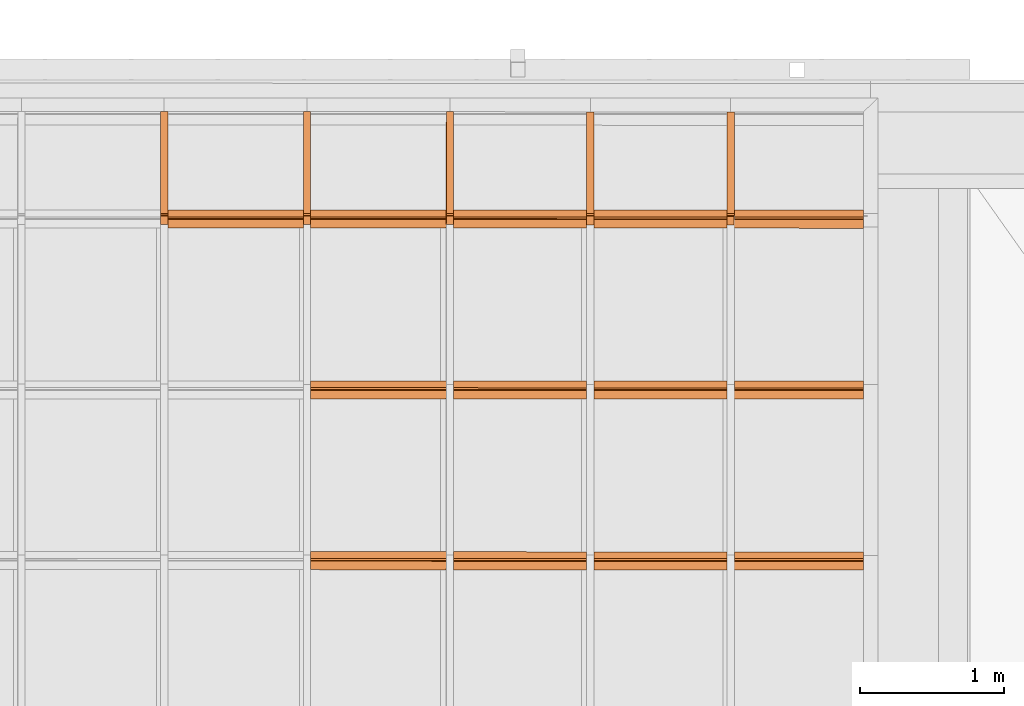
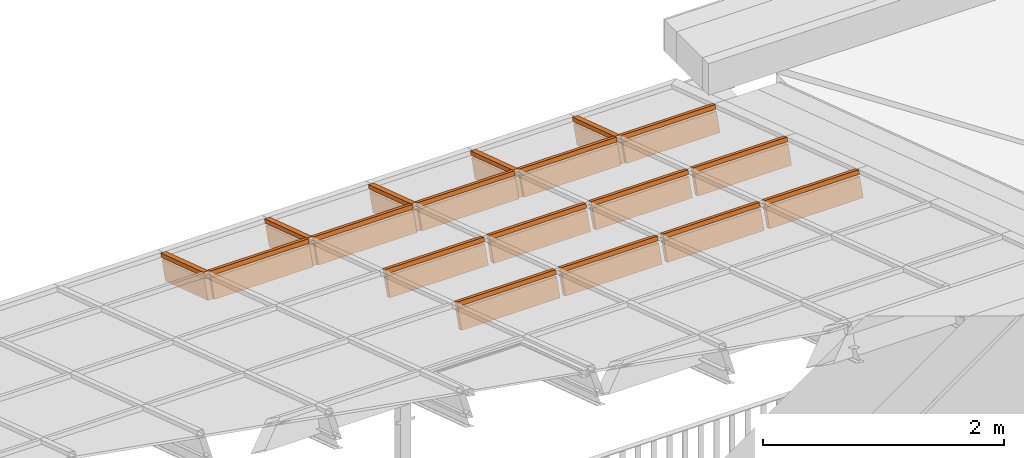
# One storey, part 47 of 47: 18 proxies, 1 element without a shape of its own.
"""IFC2X3 building model written with IfcOpenShell, lengths in millimetres."""

from ifc_helpers import new_model, entity, si_unit, converted_unit, derived_unit, money_unit, direction, frame, origin_with_axes, place, context, subcontext, project, spatial, polyline, outline, extrude, material, material_list, type_object, element, aggregate, save


model = new_model("IFC2X3")

# Units and contexts
model_context = context("Model", 3, precision=1e-05, world=origin_with_axes(), true_north=direction((0.0, 1.0)))
body_context = subcontext(model_context, "Body", "Model", "MODEL_VIEW")
ifc_project = project(units=[si_unit("LENGTHUNIT", "METRE", prefix="MILLI"), si_unit("AREAUNIT", "SQUARE_METRE"), si_unit("VOLUMEUNIT", "CUBIC_METRE"), converted_unit("PLANEANGLEUNIT", "DEGREE", entity("IfcPlaneAngleMeasure", 0.0174532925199), si_unit("PLANEANGLEUNIT", "RADIAN"), dimensions=[0, 0, 0, 0, 0, 0, 0]), si_unit("SOLIDANGLEUNIT", "STERADIAN"), money_unit("EUR"), converted_unit("TIMEUNIT", "Year", entity("IfcTimeMeasure", 31556926.0), si_unit("TIMEUNIT", "SECOND"), dimensions=[0, 0, 1, 0, 0, 0, 0]), si_unit("MASSUNIT", "GRAM", prefix="KILO"), si_unit("THERMODYNAMICTEMPERATUREUNIT", "DEGREE_CELSIUS"), si_unit("LUMINOUSINTENSITYUNIT", "LUMEN"), si_unit("ENERGYUNIT", "JOULE", prefix="MEGA"), derived_unit("THERMALCONDUCTANCEUNIT", [(si_unit("POWERUNIT", "WATT"), 1), (si_unit("LENGTHUNIT", "METRE"), -1), (si_unit("THERMODYNAMICTEMPERATUREUNIT", "KELVIN"), -1)]), derived_unit("SPECIFICHEATCAPACITYUNIT", [(si_unit("ENERGYUNIT", "JOULE"), 1), (si_unit("MASSUNIT", "GRAM", prefix="KILO"), -1), (si_unit("THERMODYNAMICTEMPERATUREUNIT", "KELVIN"), -1)]), derived_unit("MASSDENSITYUNIT", [(si_unit("MASSUNIT", "GRAM", prefix="KILO"), 1), (si_unit("VOLUMEUNIT", "CUBIC_METRE"), -1)])], contexts=[model_context])

# Site, building, storey
site_placement = place(None, origin_with_axes())
site = spatial("IfcSite", under=ifc_project, at=site_placement, Name="Site", CompositionType="ELEMENT")
building_placement = place(site_placement, origin_with_axes())
building = spatial("IfcBuilding", under=site, at=building_placement, Name="Building", CompositionType="ELEMENT")
storey_placement = place(building_placement, frame((0.0, 0.0, 6000.0), z_axis=(0.0, 0.0, 1.0), x_axis=(1.0, 0.0, 0.0)))
storey = spatial("IfcBuildingStorey", under=building, at=storey_placement, Name="KATUSEPLAAN", CompositionType="ELEMENT", Elevation=6000.0)

# Curtain wall, proxies
curtain_wall_type = type_object("IfcCurtainWallType", Name="KK-2", PredefinedType="NOTDEFINED")
curtain_wall_placement = place(storey_placement, frame((71638.1505463, 41358.6055567, 722.550081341), z_axis=(0.0, 0.0, 1.0), x_axis=(1.0, 0.0, 0.0)))
curtain_wall = element("IfcCurtainWall", 1, at=curtain_wall_placement, inside=storey, type_object=curtain_wall_type, Name="Talveaja klaaskatus")
ifc_material = material(Name="Alumiinium (1)")
ifc_material_list = material_list([ifc_material, ifc_material])
building_element_proxy_type_1 = type_object("IfcBuildingElementProxyType", Name="Frame-Mll-581", PredefinedType="NOTDEFINED")
proxy_1_placement = place(curtain_wall_placement, frame((15217.9935507, 5977.41805556, 0.851013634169), z_axis=(0.0, -0.950019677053, 0.312190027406), x_axis=(-0.999999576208, 0.000287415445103, 0.00087462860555)))
proxy_1 = element("IfcBuildingElementProxy", 2, at=proxy_1_placement, type_object=building_element_proxy_type_1, material=ifc_material_list, Name="Alumiinium (1);  Objekti nimi: Frame 22", context=body_context, shape_type="SweptSolid", body=[
    extrude(outline(polyline([(25.0091958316, 9.9769796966), (25.1841179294, 199.976899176), (-24.8158608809, 200.022931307), (-24.990782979, 10.0230118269), (25.0091958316, 9.9769796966)])), frame((0.0, 0.0, 50.0000000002), z_axis=(0.0, 0.0, 1.0), x_axis=(0.999999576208, 0.00092064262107, 0.0)), (0.0, 0.0, 1.0), 744.739022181),
    extrude(outline(polyline([(-25.0091958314, -9.97697969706), (-25.0460215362, -49.9769627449), (24.9539572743, -50.0229948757), (24.990782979, -10.0230118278), (-25.0091958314, -9.97697969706)])), frame((0.0, 0.0, 50.0000000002), z_axis=(0.0, 0.0, 1.0), x_axis=(0.999999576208, 0.00092064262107, 0.0)), (0.0, 0.0, 1.0), 744.739022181),
])
building_element_proxy_type_2 = type_object("IfcBuildingElementProxyType", Name="Frame-Mll-573", PredefinedType="NOTDEFINED")
proxy_2_placement = place(curtain_wall_placement, frame((11279.9952196, 5978.54989759, 4.29530108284), z_axis=(0.0, -0.950019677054, 0.312190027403), x_axis=(-0.999999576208, 0.000287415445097, 0.000874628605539)))
proxy_2 = element("IfcBuildingElementProxy", 3, at=proxy_2_placement, type_object=building_element_proxy_type_2, material=ifc_material_list, Name="Alumiinium (1);  Objekti nimi: Frame 22", context=body_context, shape_type="SweptSolid", body=[
    extrude(outline(polyline([(25.0091958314, 9.97697969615), (25.1841179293, 199.976899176), (-24.8158608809, 200.022931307), (-24.9907829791, 10.0230118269), (25.0091958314, 9.97697969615)])), frame((-1.13686837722e-10, 0.0, 49.9999999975), z_axis=(0.0, 0.0, 1.0), x_axis=(0.999999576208, 0.000920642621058, 0.0)), (0.0, 0.0, 1.0), 744.739022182),
    extrude(outline(polyline([(-25.0091958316, -9.97697969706), (-25.0460215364, -49.9769627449), (24.9539572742, -50.0229948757), (24.990782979, -10.0230118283), (-25.0091958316, -9.97697969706)])), frame((-1.13686837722e-10, 0.0, 49.9999999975), z_axis=(0.0, 0.0, 1.0), x_axis=(0.999999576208, 0.000920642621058, 0.0)), (0.0, 0.0, 1.0), 744.739022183),
])
building_element_proxy_type_3 = type_object("IfcBuildingElementProxyType", Name="Frame-Mll-577", PredefinedType="NOTDEFINED")
proxy_3_placement = place(curtain_wall_placement, frame((13265.994378, 5977.97909051, 2.55828867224), z_axis=(0.0, -0.950019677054, 0.312190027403), x_axis=(-0.999999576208, 0.000287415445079, 0.000874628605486)))
proxy_3 = element("IfcBuildingElementProxy", 4, at=proxy_3_placement, type_object=building_element_proxy_type_3, material=ifc_material_list, Name="Alumiinium (1);  Objekti nimi: Frame 22", context=body_context, shape_type="SweptSolid", body=[
    extrude(outline(polyline([(25.0091958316, 9.9769796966), (25.1841179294, 199.976899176), (-24.8158608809, 200.022931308), (-24.990782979, 10.0230118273), (25.0091958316, 9.9769796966)])), frame((0.0, 4.54747350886e-10, 49.9999999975), z_axis=(0.0, 0.0, 1.0), x_axis=(0.999999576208, 0.000920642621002, 0.0)), (0.0, 0.0, 1.0), 744.739022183),
    extrude(outline(polyline([(-25.0091958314, -9.97697969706), (-25.0460215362, -49.9769627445), (24.9539572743, -50.0229948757), (24.9907829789, -10.0230118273), (-25.0091958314, -9.97697969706)])), frame((0.0, 0.0, 49.9999999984), z_axis=(0.0, 0.0, 1.0), x_axis=(0.999999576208, 0.000920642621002, 0.0)), (0.0, 0.0, 1.0), 744.739022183),
])
building_element_proxy_type_4 = type_object("IfcBuildingElementProxyType", Name="Frame-Mll-213", PredefinedType="NOTDEFINED")
proxy_4_placement = place(curtain_wall_placement, frame((12272.9947988, 5978.26449405, 3.4267948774), z_axis=(0.0, -0.950019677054, 0.312190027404), x_axis=(-0.999999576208, 0.000287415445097, 0.000874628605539)))
proxy_4 = element("IfcBuildingElementProxy", 5, at=proxy_4_placement, type_object=building_element_proxy_type_4, material=ifc_material_list, Name="Alumiinium (1);  Objekti nimi: Frame 22", context=body_context, shape_type="SweptSolid", body=[
    extrude(outline(polyline([(25.0091958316, 9.9769796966), (25.1841179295, 199.976899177), (-24.8158608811, 200.022931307), (-24.9907829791, 10.0230118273), (25.0091958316, 9.9769796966)])), frame((0.0, -4.54747350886e-10, 49.9999999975), z_axis=(0.0, 0.0, 1.0), x_axis=(0.999999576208, 0.000920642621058, 0.0)), (0.0, 0.0, 1.0), 744.739022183),
    extrude(outline(polyline([(-25.0091958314, -9.9769796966), (-25.0460215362, -49.9769627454), (24.9539572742, -50.0229948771), (24.9907829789, -10.0230118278), (-25.0091958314, -9.9769796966)])), frame((0.0, -4.54747350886e-10, 49.9999999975), z_axis=(0.0, 0.0, 1.0), x_axis=(0.999999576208, 0.000920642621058, 0.0)), (0.0, 0.0, 1.0), 744.739022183),
])
building_element_proxy_type_5 = type_object("IfcBuildingElementProxyType", Name="Frame-Mll-579", PredefinedType="NOTDEFINED")
proxy_5_placement = place(curtain_wall_placement, frame((14241.9939644, 5977.69857303, 1.7046511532), z_axis=(0.0, -0.950019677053, 0.312190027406), x_axis=(-0.999999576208, 0.000287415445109, 0.000874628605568)))
proxy_5 = element("IfcBuildingElementProxy", 6, at=proxy_5_placement, type_object=building_element_proxy_type_5, material=ifc_material_list, Name="Alumiinium (1);  Objekti nimi: Frame 22", context=body_context, shape_type="SweptSolid", body=[
    extrude(outline(polyline([(25.0091958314, 9.97697969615), (25.1841179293, 199.976899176), (-24.8158608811, 200.022931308), (-24.990782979, 10.0230118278), (25.0091958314, 9.97697969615)])), frame((-1.13686837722e-10, 0.0, 49.9999999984), z_axis=(0.0, 0.0, 1.0), x_axis=(0.999999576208, 0.000920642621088, 0.0)), (0.0, 0.0, 1.0), 744.739022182),
    extrude(outline(polyline([(-25.0091958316, -9.9769796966), (-25.0460215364, -49.9769627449), (24.9539572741, -50.0229948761), (24.9907829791, -10.0230118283), (-25.0091958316, -9.9769796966)])), frame((-1.13686837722e-10, 0.0, 49.9999999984), z_axis=(0.0, 0.0, 1.0), x_axis=(0.999999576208, 0.000920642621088, 0.0)), (0.0, 0.0, 1.0), 744.739022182),
])
building_element_proxy_type_6 = type_object("IfcBuildingElementProxyType", Name="Frame-Trs-190", PredefinedType="NOTDEFINED")
proxy_6_placement = place(curtain_wall_placement, frame((11279.9952196, 5223.53218839, 252.404898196), z_axis=(0.999999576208, -0.000287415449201, -0.000874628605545), x_axis=(0.0, -0.950019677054, 0.312190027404)))
proxy_6 = element("IfcBuildingElementProxy", 7, at=proxy_6_placement, type_object=building_element_proxy_type_6, material=ifc_material_list, Name="Alumiinium (1);  Objekti nimi: Frame 22", context=body_context, shape_type="SweptSolid", body=[
    extrude(outline(polyline([(26.8723924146, 1.69544270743), (86.1885203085, 182.199173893), (38.6875384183, 197.808681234), (-20.6285894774, 17.3049500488), (26.8723924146, 1.69544270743)])), frame((0.0, 4.54747350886e-10, 24.9999999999), z_axis=(0.0, 0.0, 1.0), x_axis=(0.950019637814, 0.312190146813, 0.0)), (0.0, 0.0, 1.0), 943.0),
    extrude(outline(polyline([(-26.8723924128, -1.69544270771), (-39.3599982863, -39.6962282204), (8.1409836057, -55.3057355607), (20.6285894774, -17.3049500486), (-26.8723924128, -1.69544270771)])), frame((0.0, 4.54747350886e-10, 24.9999999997), z_axis=(0.0, 0.0, 1.0), x_axis=(0.950019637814, 0.312190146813, 0.0)), (0.0, 0.0, 1.0), 943.0),
])
building_element_proxy_type_7 = type_object("IfcBuildingElementProxyType", Name="Frame-Trs-191", PredefinedType="NOTDEFINED")
proxy_7_placement = place(curtain_wall_placement, frame((12272.9947988, 5223.24678485, 251.536391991), z_axis=(0.999999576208, -0.000287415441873, -0.000874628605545), x_axis=(0.0, -0.950019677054, 0.312190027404)))
proxy_7 = element("IfcBuildingElementProxy", 8, at=proxy_7_placement, type_object=building_element_proxy_type_7, material=ifc_material_list, Name="Alumiinium (1);  Objekti nimi: Frame 22", context=body_context, shape_type="SweptSolid", body=[
    extrude(outline(polyline([(26.8723924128, 1.69544270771), (86.1885203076, 182.199173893), (38.6875384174, 197.808681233), (-20.6285894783, 17.304950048), (26.8723924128, 1.69544270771)])), frame((9.09494701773e-10, 0.0, 24.9999999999), z_axis=(0.0, 0.0, 1.0), x_axis=(0.950019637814, 0.312190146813, 0.0)), (0.0, 0.0, 1.0), 943.0),
    extrude(outline(polyline([(-26.8723924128, -1.69544270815), (-39.3599982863, -39.6962282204), (8.14098360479, -55.3057355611), (20.6285894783, -17.3049500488), (-26.8723924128, -1.69544270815)])), frame((9.09494701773e-10, 0.0, 24.9999999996), z_axis=(0.0, 0.0, 1.0), x_axis=(0.950019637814, 0.312190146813, 0.0)), (0.0, 0.0, 1.0), 943.000000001),
])
building_element_proxy_type_8 = type_object("IfcBuildingElementProxyType", Name="Frame-Trs-192", PredefinedType="NOTDEFINED")
proxy_8_placement = place(curtain_wall_placement, frame((13265.994378, 5222.96138132, 250.667885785), z_axis=(0.999999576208, -0.000287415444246, -0.000874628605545), x_axis=(0.0, -0.950019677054, 0.312190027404)))
proxy_8 = element("IfcBuildingElementProxy", 9, at=proxy_8_placement, type_object=building_element_proxy_type_8, material=ifc_material_list, Name="Alumiinium (1);  Objekti nimi: Frame 22", context=body_context, shape_type="SweptSolid", body=[
    extrude(outline(polyline([(26.8723924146, 1.69544270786), (86.1885203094, 182.199173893), (38.6875384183, 197.808681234), (-20.6285894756, 17.304950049), (26.8723924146, 1.69544270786)])), frame((9.09494701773e-10, 9.09494701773e-10, 25.0000000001), z_axis=(0.0, 0.0, 1.0), x_axis=(0.950019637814, 0.312190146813, 0.0)), (0.0, 0.0, 1.0), 926.0),
    extrude(outline(polyline([(-26.8723924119, -1.69544270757), (-39.3599982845, -39.6962282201), (8.14098360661, -55.3057355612), (20.6285894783, -17.3049500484), (-26.8723924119, -1.69544270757)])), frame((9.09494701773e-10, 9.09494701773e-10, 25.0000000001), z_axis=(0.0, 0.0, 1.0), x_axis=(0.950019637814, 0.312190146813, 0.0)), (0.0, 0.0, 1.0), 926.0),
])
building_element_proxy_type_9 = type_object("IfcBuildingElementProxyType", Name="Frame-Trs-193", PredefinedType="NOTDEFINED")
proxy_9_placement = place(curtain_wall_placement, frame((14241.9939644, 5222.68086385, 249.814248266), z_axis=(0.999999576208, -0.000287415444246, -0.000874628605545), x_axis=(0.0, -0.950019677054, 0.312190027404)))
proxy_9 = element("IfcBuildingElementProxy", 10, at=proxy_9_placement, type_object=building_element_proxy_type_9, material=ifc_material_list, Name="Alumiinium (1);  Objekti nimi: Frame 22", context=body_context, shape_type="SweptSolid", body=[
    extrude(outline(polyline([(26.8723924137, 1.69544270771), (86.1885203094, 182.199173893), (38.6875384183, 197.808681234), (-20.6285894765, 17.3049500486), (26.8723924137, 1.69544270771)])), frame((0.0, 4.54747350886e-10, 25.0000000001), z_axis=(0.0, 0.0, 1.0), x_axis=(0.950019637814, 0.312190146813, 0.0)), (0.0, 0.0, 1.0), 926.0),
    extrude(outline(polyline([(-26.8723924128, -1.69544270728), (-39.3599982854, -39.69622822), (8.1409836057, -55.305735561), (20.6285894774, -17.3049500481), (-26.8723924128, -1.69544270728)])), frame((0.0, 4.54747350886e-10, 25.0000000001), z_axis=(0.0, 0.0, 1.0), x_axis=(0.950019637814, 0.312190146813, 0.0)), (0.0, 0.0, 1.0), 926.0),
])
building_element_proxy_type_10 = type_object("IfcBuildingElementProxyType", Name="Frame-Trs-194", PredefinedType="NOTDEFINED")
proxy_10_placement = place(curtain_wall_placement, frame((15217.9935507, 5222.40034637, 248.960610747), z_axis=(0.999999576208, -0.000287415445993, -0.000874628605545), x_axis=(0.0, -0.950019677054, 0.312190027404)))
proxy_10 = element("IfcBuildingElementProxy", 11, at=proxy_10_placement, type_object=building_element_proxy_type_10, material=ifc_material_list, Name="Alumiinium (1);  Objekti nimi: Frame 22", context=body_context, shape_type="SweptSolid", body=[
    extrude(outline(polyline([(26.8723924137, 1.69544270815), (86.1885203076, 182.199173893), (38.6875384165, 197.808681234), (-20.6285894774, 17.3049500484), (26.8723924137, 1.69544270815)])), frame((0.0, 4.54747350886e-10, 25.0000000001), z_axis=(0.0, 0.0, 1.0), x_axis=(0.950019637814, 0.312190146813, 0.0)), (0.0, 0.0, 1.0), 898.0),
    extrude(outline(polyline([(-26.8723924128, -1.69544270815), (-39.3599982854, -39.6962282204), (8.1409836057, -55.3057355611), (20.6285894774, -17.3049500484), (-26.8723924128, -1.69544270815)])), frame((0.0, 4.54747350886e-10, 24.9999999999), z_axis=(0.0, 0.0, 1.0), x_axis=(0.950019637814, 0.312190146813, 0.0)), (0.0, 0.0, 1.0), 898.0),
])
building_element_proxy_type_11 = type_object("IfcBuildingElementProxyType", Name="Frame-Trs-215", PredefinedType="NOTDEFINED")
proxy_11_placement = place(curtain_wall_placement, frame((12272.9947988, 4035.72218854, 641.773926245), z_axis=(0.999999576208, -0.000287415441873, -0.000874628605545), x_axis=(0.0, -0.950019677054, 0.312190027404)))
proxy_11 = element("IfcBuildingElementProxy", 12, at=proxy_11_placement, type_object=building_element_proxy_type_11, material=ifc_material_list, Name="Alumiinium (1);  Objekti nimi: Frame 22", context=body_context, shape_type="SweptSolid", body=[
    extrude(outline(polyline([(26.8723924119, 1.69544270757), (86.1885203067, 182.199173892), (38.6875384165, 197.808681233), (-20.6285894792, 17.3049500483), (26.8723924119, 1.69544270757)])), frame((0.0, 0.0, 24.9999999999), z_axis=(0.0, 0.0, 1.0), x_axis=(0.950019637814, 0.312190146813, 0.0)), (0.0, 0.0, 1.0), 943.000000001),
    extrude(outline(polyline([(-26.8723924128, -1.69544270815), (-39.3599982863, -39.6962282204), (8.14098360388, -55.3057355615), (20.6285894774, -17.3049500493), (-26.8723924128, -1.69544270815)])), frame((0.0, 0.0, 24.9999999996), z_axis=(0.0, 0.0, 1.0), x_axis=(0.950019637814, 0.312190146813, 0.0)), (0.0, 0.0, 1.0), 943.000000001),
])
building_element_proxy_type_12 = type_object("IfcBuildingElementProxyType", Name="Frame-Trs-246", PredefinedType="NOTDEFINED")
proxy_12_placement = place(curtain_wall_placement, frame((12272.9947988, 2848.19759222, 1032.0114605), z_axis=(0.999999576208, -0.000287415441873, -0.000874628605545), x_axis=(0.0, -0.950019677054, 0.312190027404)))
proxy_12 = element("IfcBuildingElementProxy", 13, at=proxy_12_placement, type_object=building_element_proxy_type_12, material=ifc_material_list, Name="Alumiinium (1);  Objekti nimi: Frame 22", context=body_context, shape_type="SweptSolid", body=[
    extrude(outline(polyline([(26.8723924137, 1.69544270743), (86.1885203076, 182.199173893), (38.6875384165, 197.808681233), (-20.6285894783, 17.3049500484), (26.8723924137, 1.69544270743)])), frame((9.09494701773e-10, 4.54747350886e-10, 24.9999999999), z_axis=(0.0, 0.0, 1.0), x_axis=(0.950019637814, 0.312190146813, 0.0)), (0.0, 0.0, 1.0), 943.000000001),
    extrude(outline(polyline([(-26.8723924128, -1.695442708), (-39.3599982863, -39.6962282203), (8.14098360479, -55.305735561), (20.6285894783, -17.3049500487), (-26.8723924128, -1.695442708)])), frame((9.09494701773e-10, 4.54747350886e-10, 24.9999999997), z_axis=(0.0, 0.0, 1.0), x_axis=(0.950019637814, 0.312190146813, 0.0)), (0.0, 0.0, 1.0), 943.000000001),
])
building_element_proxy_type_13 = type_object("IfcBuildingElementProxyType", Name="Frame-Trs-216", PredefinedType="NOTDEFINED")
proxy_13_placement = place(curtain_wall_placement, frame((13265.994378, 4035.436785, 640.90542004), z_axis=(0.999999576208, -0.000287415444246, -0.000874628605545), x_axis=(0.0, -0.950019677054, 0.312190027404)))
proxy_13 = element("IfcBuildingElementProxy", 14, at=proxy_13_placement, type_object=building_element_proxy_type_13, material=ifc_material_list, Name="Alumiinium (1);  Objekti nimi: Frame 22", context=body_context, shape_type="SweptSolid", body=[
    extrude(outline(polyline([(26.8723924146, 1.69544270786), (86.1885203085, 182.199173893), (38.6875384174, 197.808681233), (-20.6285894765, 17.3049500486), (26.8723924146, 1.69544270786)])), frame((0.0, 0.0, 24.9999999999), z_axis=(0.0, 0.0, 1.0), x_axis=(0.950019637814, 0.312190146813, 0.0)), (0.0, 0.0, 1.0), 926.0),
    extrude(outline(polyline([(-26.8723924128, -1.69544270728), (-39.3599982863, -39.6962282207), (8.1409836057, -55.305735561), (20.6285894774, -17.3049500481), (-26.8723924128, -1.69544270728)])), frame((0.0, 0.0, 24.9999999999), z_axis=(0.0, 0.0, 1.0), x_axis=(0.950019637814, 0.312190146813, 0.0)), (0.0, 0.0, 1.0), 926.0),
])
building_element_proxy_type_14 = type_object("IfcBuildingElementProxyType", Name="Frame-Trs-245", PredefinedType="NOTDEFINED")
proxy_14_placement = place(curtain_wall_placement, frame((13265.994378, 2847.91218869, 1031.14295429), z_axis=(0.999999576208, -0.000287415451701, -0.000874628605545), x_axis=(0.0, -0.950019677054, 0.312190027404)))
proxy_14 = element("IfcBuildingElementProxy", 15, at=proxy_14_placement, type_object=building_element_proxy_type_14, material=ifc_material_list, Name="Alumiinium (1);  Objekti nimi: Frame 22", context=body_context, shape_type="SweptSolid", body=[
    extrude(outline(polyline([(26.8723924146, 1.69544270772), (86.1885203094, 182.199173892), (38.6875384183, 197.808681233), (-20.6285894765, 17.3049500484), (26.8723924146, 1.69544270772)])), frame((0.0, 0.0, 24.9999999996), z_axis=(0.0, 0.0, 1.0), x_axis=(0.950019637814, 0.312190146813, 0.0)), (0.0, 0.0, 1.0), 926.0),
    extrude(outline(polyline([(-26.8723924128, -1.69544270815), (-39.3599982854, -39.6962282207), (8.14098360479, -55.3057355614), (20.6285894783, -17.3049500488), (-26.8723924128, -1.69544270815)])), frame((0.0, 0.0, 24.9999999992), z_axis=(0.0, 0.0, 1.0), x_axis=(0.950019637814, 0.312190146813, 0.0)), (0.0, 0.0, 1.0), 926.000000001),
])
building_element_proxy_type_15 = type_object("IfcBuildingElementProxyType", Name="Frame-Trs-217", PredefinedType="NOTDEFINED")
proxy_15_placement = place(curtain_wall_placement, frame((14241.9939644, 4035.15626753, 640.051782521), z_axis=(0.999999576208, -0.000287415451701, -0.000874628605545), x_axis=(0.0, -0.950019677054, 0.312190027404)))
proxy_15 = element("IfcBuildingElementProxy", 16, at=proxy_15_placement, type_object=building_element_proxy_type_15, material=ifc_material_list, Name="Alumiinium (1);  Objekti nimi: Frame 22", context=body_context, shape_type="SweptSolid", body=[
    extrude(outline(polyline([(26.8723924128, 1.69544270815), (86.1885203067, 182.199173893), (38.6875384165, 197.808681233), (-20.6285894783, 17.3049500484), (26.8723924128, 1.69544270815)])), frame((-9.09494701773e-10, 0.0, 24.9999999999), z_axis=(0.0, 0.0, 1.0), x_axis=(0.950019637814, 0.312190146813, 0.0)), (0.0, 0.0, 1.0), 926.0),
    extrude(outline(polyline([(-26.8723924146, -1.69544270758), (-39.3599982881, -39.6962282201), (8.14098360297, -55.3057355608), (20.6285894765, -17.3049500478), (-26.8723924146, -1.69544270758)])), frame((-9.09494701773e-10, 0.0, 24.9999999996), z_axis=(0.0, 0.0, 1.0), x_axis=(0.950019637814, 0.312190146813, 0.0)), (0.0, 0.0, 1.0), 926.000000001),
])
building_element_proxy_type_16 = type_object("IfcBuildingElementProxyType", Name="Frame-Trs-244", PredefinedType="NOTDEFINED")
proxy_16_placement = place(curtain_wall_placement, frame((14241.9939644, 2847.6316712, 1030.28931678), z_axis=(0.999999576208, -0.000287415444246, -0.000874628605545), x_axis=(0.0, -0.950019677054, 0.312190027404)))
proxy_16 = element("IfcBuildingElementProxy", 17, at=proxy_16_placement, type_object=building_element_proxy_type_16, material=ifc_material_list, Name="Alumiinium (1);  Objekti nimi: Frame 22", context=body_context, shape_type="SweptSolid", body=[
    extrude(outline(polyline([(26.8723924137, 1.69544270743), (86.1885203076, 182.199173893), (38.6875384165, 197.808681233), (-20.6285894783, 17.304950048), (26.8723924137, 1.69544270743)])), frame((9.09494701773e-10, 0.0, 24.9999999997), z_axis=(0.0, 0.0, 1.0), x_axis=(0.950019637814, 0.312190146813, 0.0)), (0.0, 0.0, 1.0), 926.0),
    extrude(outline(polyline([(-26.8723924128, -1.69544270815), (-39.3599982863, -39.6962282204), (8.14098360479, -55.3057355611), (20.6285894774, -17.3049500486), (-26.8723924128, -1.69544270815)])), frame((9.09494701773e-10, 0.0, 24.9999999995), z_axis=(0.0, 0.0, 1.0), x_axis=(0.950019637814, 0.312190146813, 0.0)), (0.0, 0.0, 1.0), 926.000000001),
])
building_element_proxy_type_17 = type_object("IfcBuildingElementProxyType", Name="Frame-Trs-218", PredefinedType="NOTDEFINED")
proxy_17_placement = place(curtain_wall_placement, frame((15217.9935507, 4034.87575005, 639.198145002), z_axis=(0.999999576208, -0.000287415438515, -0.000874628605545), x_axis=(0.0, -0.950019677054, 0.312190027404)))
proxy_17 = element("IfcBuildingElementProxy", 18, at=proxy_17_placement, type_object=building_element_proxy_type_17, material=ifc_material_list, Name="Alumiinium (1);  Objekti nimi: Frame 22", context=body_context, shape_type="SweptSolid", body=[
    extrude(outline(polyline([(26.8723924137, 1.69544270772), (86.1885203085, 182.199173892), (38.6875384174, 197.808681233), (-20.6285894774, 17.3049500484), (26.8723924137, 1.69544270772)])), frame((-9.09494701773e-10, 0.0, 25.0000000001), z_axis=(0.0, 0.0, 1.0), x_axis=(0.950019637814, 0.312190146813, 0.0)), (0.0, 0.0, 1.0), 898.0),
    extrude(outline(polyline([(-26.8723924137, -1.69544270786), (-39.3599982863, -39.6962282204), (8.14098360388, -55.3057355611), (20.6285894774, -17.304950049), (-26.8723924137, -1.69544270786)])), frame((-9.09494701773e-10, 0.0, 24.9999999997), z_axis=(0.0, 0.0, 1.0), x_axis=(0.950019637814, 0.312190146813, 0.0)), (0.0, 0.0, 1.0), 898.000000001),
])
building_element_proxy_type_18 = type_object("IfcBuildingElementProxyType", Name="Frame-Trs-243", PredefinedType="NOTDEFINED")
proxy_18_placement = place(curtain_wall_placement, frame((15217.9935507, 2847.35115373, 1029.43567926), z_axis=(0.999999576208, -0.000287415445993, -0.000874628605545), x_axis=(0.0, -0.950019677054, 0.312190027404)))
proxy_18 = element("IfcBuildingElementProxy", 19, at=proxy_18_placement, type_object=building_element_proxy_type_18, material=ifc_material_list, Name="Alumiinium (1);  Objekti nimi: Frame 22", context=body_context, shape_type="SweptSolid", body=[
    extrude(outline(polyline([(26.8723924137, 1.69544270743), (86.1885203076, 182.199173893), (38.6875384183, 197.808681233), (-20.6285894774, 17.3049500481), (26.8723924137, 1.69544270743)])), frame((9.09494701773e-10, 0.0, 25.0), z_axis=(0.0, 0.0, 1.0), x_axis=(0.950019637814, 0.312190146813, 0.0)), (0.0, 0.0, 1.0), 898.0),
    extrude(outline(polyline([(-26.8723924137, -1.69544270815), (-39.3599982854, -39.6962282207), (8.1409836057, -55.3057355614), (20.6285894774, -17.3049500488), (-26.8723924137, -1.69544270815)])), frame((9.09494701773e-10, 0.0, 24.9999999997), z_axis=(0.0, 0.0, 1.0), x_axis=(0.950019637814, 0.312190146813, 0.0)), (0.0, 0.0, 1.0), 898.0),
])
aggregate(curtain_wall, [proxy_1, proxy_2, proxy_3, proxy_4, proxy_5, proxy_6, proxy_7, proxy_8, proxy_9, proxy_10, proxy_11, proxy_12, proxy_13, proxy_14, proxy_15, proxy_16, proxy_17, proxy_18])

save(model, "model.ifc")
